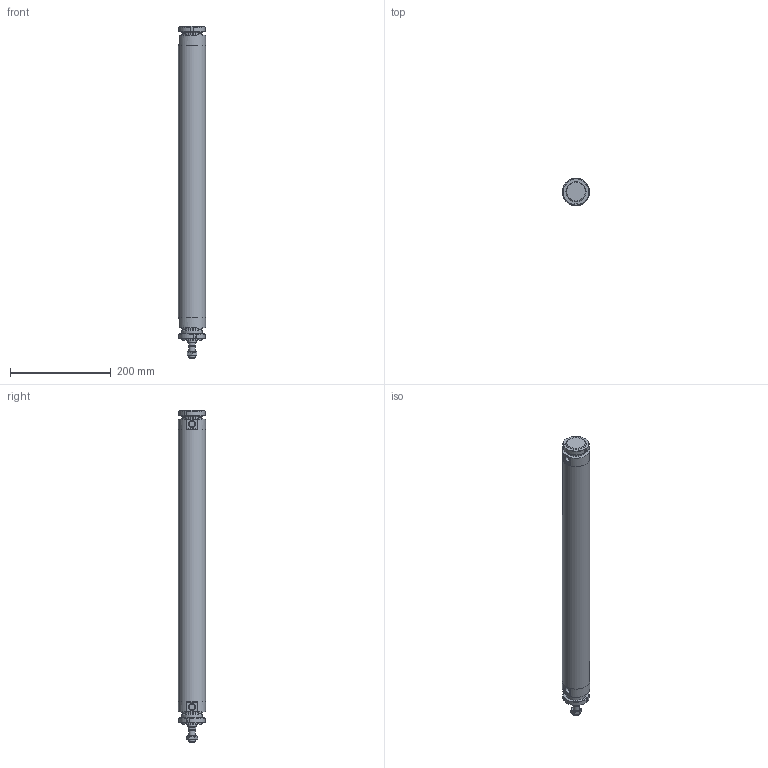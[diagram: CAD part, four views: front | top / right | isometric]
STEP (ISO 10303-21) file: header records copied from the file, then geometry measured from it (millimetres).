
FILE_DESCRIPTION(/* description */ (''),/* implementation_level */ '2;1');
FILE_NAME(/* name */ 'I:\Area Tecnica\Documenti\A-Manieri\_Inventor\12X\12X#C_###_####_#_#\12XAC_050_0500_#_#.stp',/* time_stamp */ '2015-04-28T15:18:19+02:00',/* author */ ('maniean1'),/* organization */ ('Pneumax S.p.A.'),/* preprocessor_version */ 'ST-DEVELOPER v15.2',/* originating_system */ 'Autodesk Inventor 2014',/* authorisation */ '');
FILE_SCHEMA (('AUTOMOTIVE_DESIGN { 1 0 10303 214 3 1 1 }'));
Length unit declared in the file: millimetre
Products named in the file (7): C1250_619-0500; 12X50_604; S12X50_0500; 12X_50_11; 12X50_620; G12X_050_05; 12XAC_050_0500_#_#
Bounding box: 54 x 54 x 660 mm (x, y, z)
Volume: 525315.6 mm3; surface area: 250202.3 mm2
Topology: 7 solids, 7 shells, 106 faces, 240 edges, 154 vertices
Faces by surface type: plane 52, cylinder 27, cone 27
Full cylindrical faces by diameter (mm): 10.2 x1, 11.4 x2, 12 x2, 14 x1, 15.6 x1, 16 x1, 38.2 x2, 40 x6, 50 x2, 54 x3
Entity records: 2243 total; most frequent: CARTESIAN_POINT 413, DIRECTION 382, ORIENTED_EDGE 292, AXIS2_PLACEMENT_3D 165, EDGE_CURVE 146, EDGE_LOOP 132, VERTEX_POINT 112, ADVANCED_FACE 85
